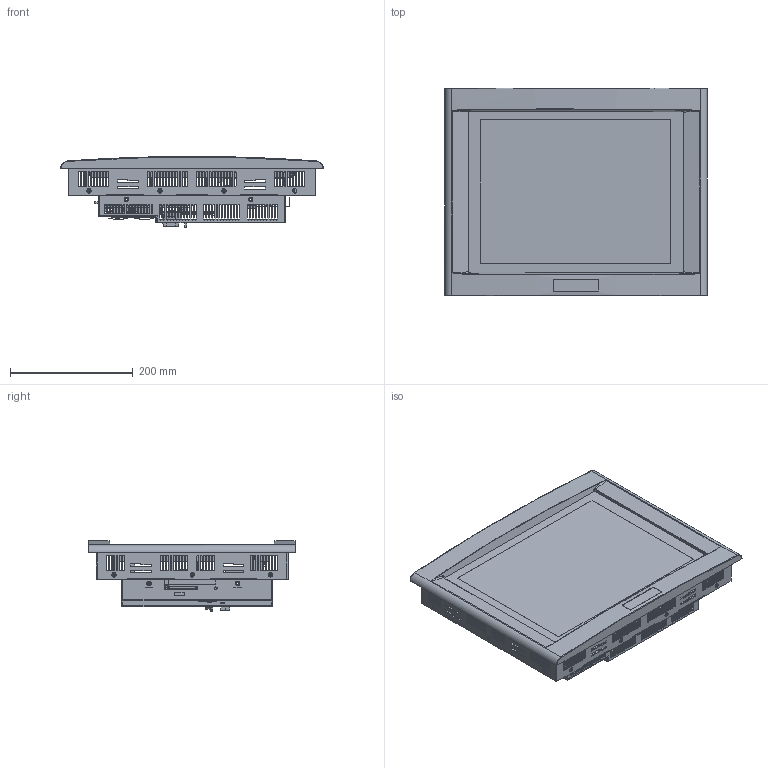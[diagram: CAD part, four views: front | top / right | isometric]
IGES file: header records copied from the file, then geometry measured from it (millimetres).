
Start section:  PTC IGES file: pa_15_sw0003.igs
Global section: file name: pa_15_sw0003.igs; native system: Pro/ENGINEER by Parametric Technology Corporation; preprocessor: 2004130; author: srollman; organization: Unknown; date: 080321.133322; units: inch
Bounding box: 427.1 x 338.23 x 115.83 mm (x, y, z)
Surface area: 1105277.2 mm2 (no closed solid volume)
Topology: 0 solids, 0 shells, 1117 faces, 10577 edges, 10577 vertices
Faces by surface type: bspline 867, revolution 250
